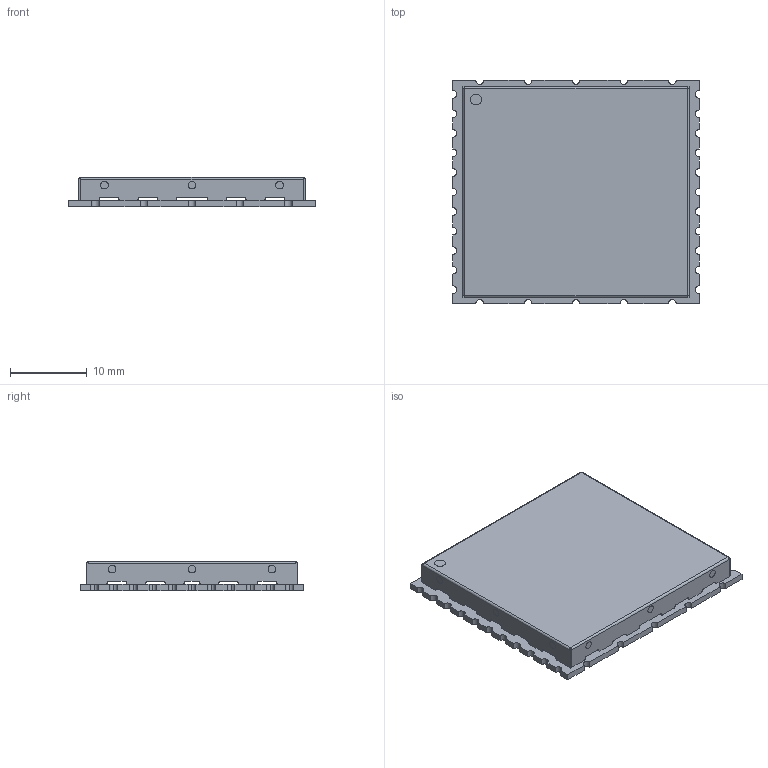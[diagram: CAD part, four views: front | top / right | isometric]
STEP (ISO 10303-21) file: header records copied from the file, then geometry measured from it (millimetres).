
FILE_DESCRIPTION(('FreeCAD Model'),'2;1');
FILE_NAME('X:/Progettazione/PROJECTS/R1271C/HARDWARE/Rev.1-0/ProjectOutputs/3D_STEP/Assieme_completo.step','2020-06-10T12:00:49',('Author'),(''), 'Open CASCADE STEP processor 7.3','FreeCAD','Unknown');
FILE_SCHEMA(('AUTOMOTIVE_DESIGN { 1 0 10303 214 1 1 1 1 }'));
Length unit declared in the file: millimetre
Products named in the file (3): R1271C_pcb; Schermino; pin1
Bounding box: 32 x 29 x 3.81 mm (x, y, z)
Volume: 958.1 mm3; surface area: 4159.9 mm2
Topology: 3 solids, 3 shells, 266 faces, 725 edges, 489 vertices
Faces by surface type: plane 134, cylinder 132
Full cylindrical faces by diameter (mm): 1.4 x1
Entity records: 19478 total; most frequent: CARTESIAN_POINT 3285, DIRECTION 2955, LINE 1524, VECTOR 1524, ORIENTED_EDGE 1450, PCURVE 1450, DEFINITIONAL_REPRESENTATION 1450, EDGE_CURVE 725
